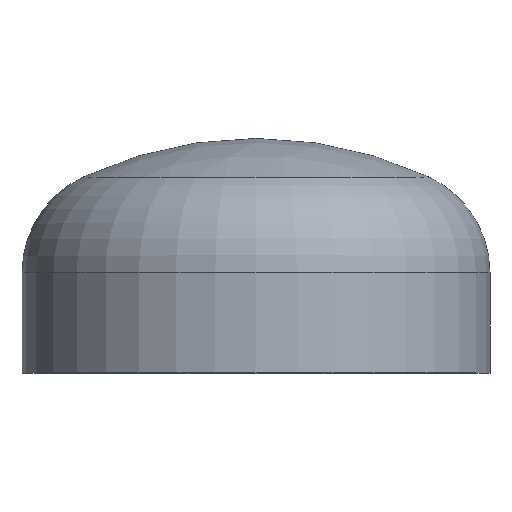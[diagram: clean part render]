
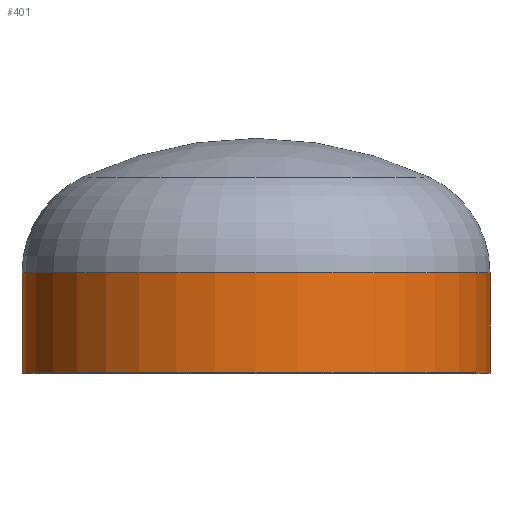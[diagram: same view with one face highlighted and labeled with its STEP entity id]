
A CAD part, top view. The second image highlights one B-rep face of the part: STEP entity #401.
In plain terms, the highlighted cylindrical face has radius 350 mm (diameter 700 mm), a partial arc.
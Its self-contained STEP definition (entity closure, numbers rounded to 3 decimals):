
#4 = ORIENTED_EDGE ( 'NONE', *, *, #388, .F. ) ;
#6 = DIRECTION ( 'NONE',  ( 0., -1., 0. ) ) ;
#13 = VERTEX_POINT ( 'NONE', #339 ) ;
#43 = ORIENTED_EDGE ( 'NONE', *, *, #367, .F. ) ;
#53 = ORIENTED_EDGE ( 'NONE', *, *, #135, .T. ) ;
#54 = VERTEX_POINT ( 'NONE', #230 ) ;
#87 = VERTEX_POINT ( 'NONE', #219 ) ;
#94 = CIRCLE ( 'NONE', #131, 350. ) ;
#120 = ORIENTED_EDGE ( 'NONE', *, *, #137, .T. ) ;
#131 = AXIS2_PLACEMENT_3D ( 'NONE', #303, #172, #190 ) ;
#135 = EDGE_CURVE ( 'NONE', #54, #13, #373, .T. ) ;
#137 = EDGE_CURVE ( 'NONE', #87, #54, #94, .T. ) ;
#138 = DIRECTION ( 'NONE',  ( 0., -1., 0. ) ) ;
#164 = DIRECTION ( 'NONE',  ( 0., -1., 0. ) ) ;
#165 = CARTESIAN_POINT ( 'NONE',  ( 350., 0., 0. ) ) ;
#171 = AXIS2_PLACEMENT_3D ( 'NONE', #409, #138, #249 ) ;
#172 = DIRECTION ( 'NONE',  ( 0., -1., 0. ) ) ;
#175 = CARTESIAN_POINT ( 'NONE',  ( 350., 0., 0. ) ) ;
#182 = VECTOR ( 'NONE', #164, 1000. ) ;
#185 = VECTOR ( 'NONE', #223, 1000. ) ;
#190 = DIRECTION ( 'NONE',  ( 1., 0., 0. ) ) ;
#219 = CARTESIAN_POINT ( 'NONE',  ( 350., 150., 0. ) ) ;
#223 = DIRECTION ( 'NONE',  ( 0., -1., 0. ) ) ;
#228 = CYLINDRICAL_SURFACE ( 'NONE', #171, 350. ) ;
#230 = CARTESIAN_POINT ( 'NONE',  ( -350., 150., 0. ) ) ;
#242 = FACE_OUTER_BOUND ( 'NONE', #268, .T. ) ;
#249 = DIRECTION ( 'NONE',  ( 1., 0., 0. ) ) ;
#252 = CARTESIAN_POINT ( 'NONE',  ( 0., 0., 0. ) ) ;
#268 = EDGE_LOOP ( 'NONE', ( #120, #53, #43, #4 ) ) ;
#276 = VERTEX_POINT ( 'NONE', #165 ) ;
#303 = CARTESIAN_POINT ( 'NONE',  ( 0., 150., 0. ) ) ;
#310 = CIRCLE ( 'NONE', #384, 350. ) ;
#320 = DIRECTION ( 'NONE',  ( 1., 0., 0. ) ) ;
#339 = CARTESIAN_POINT ( 'NONE',  ( -350., 0., 0. ) ) ;
#367 = EDGE_CURVE ( 'NONE', #276, #13, #310, .T. ) ;
#369 = LINE ( 'NONE', #175, #182 ) ;
#373 = LINE ( 'NONE', #404, #185 ) ;
#384 = AXIS2_PLACEMENT_3D ( 'NONE', #252, #6, #320 ) ;
#388 = EDGE_CURVE ( 'NONE', #87, #276, #369, .T. ) ;
#401 = ADVANCED_FACE ( 'NONE', ( #242 ), #228, .T. ) ;
#404 = CARTESIAN_POINT ( 'NONE',  ( -350., 0., 0. ) ) ;
#409 = CARTESIAN_POINT ( 'NONE',  ( 0., 0., 0. ) ) ;
